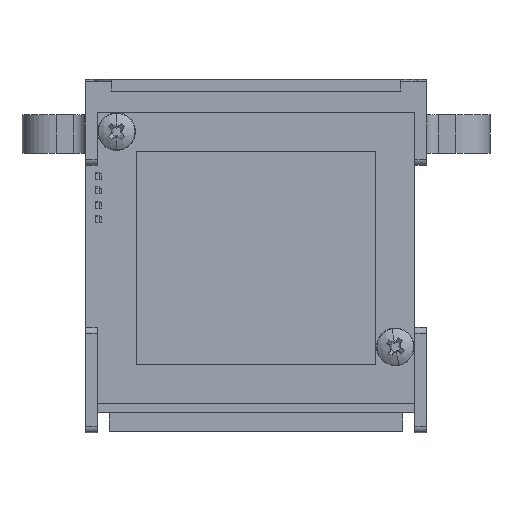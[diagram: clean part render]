
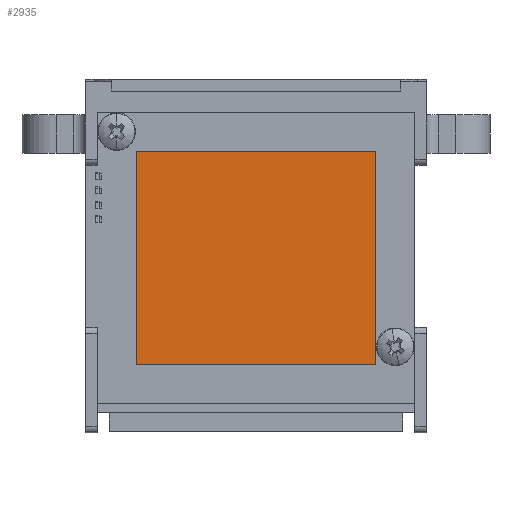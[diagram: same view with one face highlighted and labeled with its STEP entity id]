
A CAD part, front view. The second image highlights one B-rep face of the part: STEP entity #2935.
In plain terms, the highlighted planar face has unit normal (0, -1, 0).
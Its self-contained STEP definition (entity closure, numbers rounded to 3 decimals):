
#72 = DIRECTION ( 'NONE',  ( 1., 0., 0. ) ) ;
#546 = EDGE_CURVE ( 'NONE', #7406, #21600, #8990, .T. ) ;
#1228 = EDGE_CURVE ( 'NONE', #21927, #23982, #8891, .T. ) ;
#1976 = LINE ( 'NONE', #2226, #13341 ) ;
#2226 = CARTESIAN_POINT ( 'NONE',  ( -10.2, -9.4, -11.8 ) ) ;
#2264 = VECTOR ( 'NONE', #21328, 1000. ) ;
#2598 = DIRECTION ( 'NONE',  ( 0., 0., -1. ) ) ;
#2935 = ADVANCED_FACE ( 'NONE', ( #18147 ), #8899, .T. ) ;
#3857 = EDGE_CURVE ( 'NONE', #21600, #21927, #21210, .T. ) ;
#3973 = CARTESIAN_POINT ( 'NONE',  ( 10.2, -9.4, 6.35 ) ) ;
#5040 = DIRECTION ( 'NONE',  ( 0., 0., 1. ) ) ;
#7002 = ORIENTED_EDGE ( 'NONE', *, *, #546, .T. ) ;
#7406 = VERTEX_POINT ( 'NONE', #20468 ) ;
#7585 = CARTESIAN_POINT ( 'NONE',  ( 10.2, -9.4, -11.8 ) ) ;
#8891 = LINE ( 'NONE', #12797, #9845 ) ;
#8899 = PLANE ( 'NONE',  #16543 ) ;
#8990 = LINE ( 'NONE', #7585, #10204 ) ;
#9845 = VECTOR ( 'NONE', #2598, 1000. ) ;
#10204 = VECTOR ( 'NONE', #5040, 1000. ) ;
#11103 = EDGE_LOOP ( 'NONE', ( #15873, #16792, #7002, #18903 ) ) ;
#12797 = CARTESIAN_POINT ( 'NONE',  ( -10.2, -9.4, 6.35 ) ) ;
#12942 = CARTESIAN_POINT ( 'NONE',  ( 10.2, -9.4, 6.35 ) ) ;
#13341 = VECTOR ( 'NONE', #72, 1000. ) ;
#15201 = EDGE_CURVE ( 'NONE', #23982, #7406, #1976, .T. ) ;
#15873 = ORIENTED_EDGE ( 'NONE', *, *, #1228, .T. ) ;
#16368 = DIRECTION ( 'NONE',  ( 0., 0., -1. ) ) ;
#16543 = AXIS2_PLACEMENT_3D ( 'NONE', #21957, #16624, #16368 ) ;
#16624 = DIRECTION ( 'NONE',  ( 0., -1., 0. ) ) ;
#16792 = ORIENTED_EDGE ( 'NONE', *, *, #15201, .T. ) ;
#18147 = FACE_OUTER_BOUND ( 'NONE', #11103, .T. ) ;
#18903 = ORIENTED_EDGE ( 'NONE', *, *, #3857, .T. ) ;
#20368 = CARTESIAN_POINT ( 'NONE',  ( -10.2, -9.4, -11.8 ) ) ;
#20468 = CARTESIAN_POINT ( 'NONE',  ( 10.2, -9.4, -11.8 ) ) ;
#21210 = LINE ( 'NONE', #3973, #2264 ) ;
#21328 = DIRECTION ( 'NONE',  ( -1., 0., 0. ) ) ;
#21600 = VERTEX_POINT ( 'NONE', #12942 ) ;
#21927 = VERTEX_POINT ( 'NONE', #24713 ) ;
#21957 = CARTESIAN_POINT ( 'NONE',  ( 0., -9.4, 0. ) ) ;
#23982 = VERTEX_POINT ( 'NONE', #20368 ) ;
#24713 = CARTESIAN_POINT ( 'NONE',  ( -10.2, -9.4, 6.35 ) ) ;
